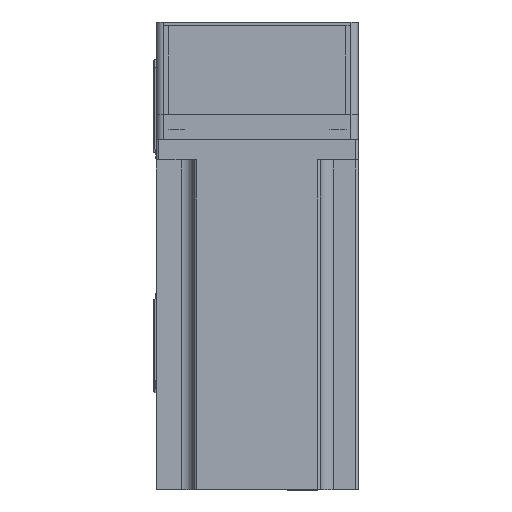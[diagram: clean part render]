
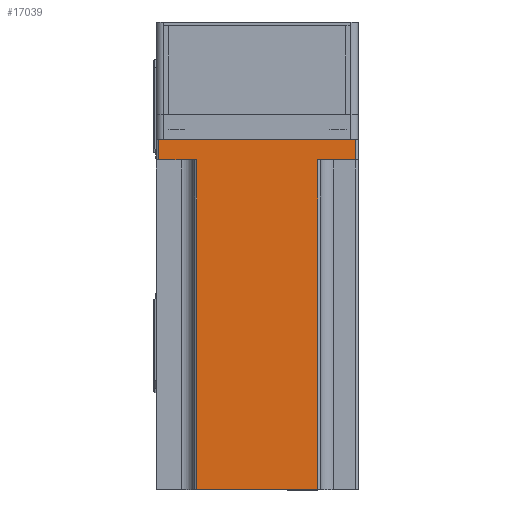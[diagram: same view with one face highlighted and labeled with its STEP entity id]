
A CAD part, top view. The second image highlights one B-rep face of the part: STEP entity #17039.
In plain terms, the highlighted planar face has unit normal (0, 0, 1) as drawn and (0, 1, 0) by its records, which use the part's own axes.
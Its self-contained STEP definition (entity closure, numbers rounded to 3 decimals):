
#986 = VECTOR ( 'NONE', #19134, 1000. ) ;
#1027 = VECTOR ( 'NONE', #12101, 1000. ) ;
#1615 = ORIENTED_EDGE ( 'NONE', *, *, #40635, .F. ) ;
#1739 = VERTEX_POINT ( 'NONE', #32372 ) ;
#1788 = CARTESIAN_POINT ( 'NONE',  ( 39., 40., 8. ) ) ;
#2291 = EDGE_CURVE ( 'NONE', #11723, #8171, #30824, .T. ) ;
#3043 = ORIENTED_EDGE ( 'NONE', *, *, #44759, .T. ) ;
#3064 = DIRECTION ( 'NONE',  ( 0., 0., -1. ) ) ;
#3933 = VECTOR ( 'NONE', #8280, 1000. ) ;
#4573 = CARTESIAN_POINT ( 'NONE',  ( -24., 40., 138.3 ) ) ;
#4998 = EDGE_CURVE ( 'NONE', #46299, #37204, #22251, .T. ) ;
#5219 = DIRECTION ( 'NONE',  ( -1., 0., 0. ) ) ;
#5310 = CARTESIAN_POINT ( 'NONE',  ( -24., 40., 8. ) ) ;
#6472 = CARTESIAN_POINT ( 'NONE',  ( 40., 40., 138.3 ) ) ;
#7607 = ORIENTED_EDGE ( 'NONE', *, *, #36972, .T. ) ;
#8171 = VERTEX_POINT ( 'NONE', #37384 ) ;
#8280 = DIRECTION ( 'NONE',  ( -1., 0., 0. ) ) ;
#10246 = DIRECTION ( 'NONE',  ( 1., 0., 0. ) ) ;
#11002 = LINE ( 'NONE', #34183, #986 ) ;
#11063 = LINE ( 'NONE', #27795, #29935 ) ;
#11723 = VERTEX_POINT ( 'NONE', #33739 ) ;
#12101 = DIRECTION ( 'NONE',  ( 0., 0., 1. ) ) ;
#12954 = LINE ( 'NONE', #24574, #41929 ) ;
#13835 = LINE ( 'NONE', #33223, #42789 ) ;
#14549 = VERTEX_POINT ( 'NONE', #1788 ) ;
#15759 = VERTEX_POINT ( 'NONE', #39603 ) ;
#16378 = AXIS2_PLACEMENT_3D ( 'NONE', #6472, #32870, #10246 ) ;
#16830 = CARTESIAN_POINT ( 'NONE',  ( -24., 40., 138.3 ) ) ;
#17039 = ADVANCED_FACE ( 'NONE', ( #27146 ), #32534, .F. ) ;
#18479 = CARTESIAN_POINT ( 'NONE',  ( 24., 40., 8. ) ) ;
#19032 = LINE ( 'NONE', #35633, #37972 ) ;
#19134 = DIRECTION ( 'NONE',  ( 0., 0., -1. ) ) ;
#20915 = DIRECTION ( 'NONE',  ( -1., 0., 0. ) ) ;
#22251 = LINE ( 'NONE', #4573, #1027 ) ;
#24569 = ORIENTED_EDGE ( 'NONE', *, *, #27903, .T. ) ;
#24574 = CARTESIAN_POINT ( 'NONE',  ( 40., 40., 138.3 ) ) ;
#25039 = ORIENTED_EDGE ( 'NONE', *, *, #29566, .F. ) ;
#27146 = FACE_OUTER_BOUND ( 'NONE', #47055, .T. ) ;
#27795 = CARTESIAN_POINT ( 'NONE',  ( 40., 40., 0. ) ) ;
#27903 = EDGE_CURVE ( 'NONE', #15759, #38666, #13835, .T. ) ;
#28360 = CARTESIAN_POINT ( 'NONE',  ( -39., 40., 138.3 ) ) ;
#29146 = EDGE_CURVE ( 'NONE', #1739, #11723, #11063, .T. ) ;
#29566 = EDGE_CURVE ( 'NONE', #14549, #38666, #44072, .T. ) ;
#29935 = VECTOR ( 'NONE', #5219, 1000. ) ;
#30824 = LINE ( 'NONE', #28360, #40884 ) ;
#30895 = CARTESIAN_POINT ( 'NONE',  ( 25., 40., 8. ) ) ;
#30936 = ORIENTED_EDGE ( 'NONE', *, *, #29146, .T. ) ;
#32372 = CARTESIAN_POINT ( 'NONE',  ( 39., 40., 0. ) ) ;
#32534 = PLANE ( 'NONE',  #16378 ) ;
#32870 = DIRECTION ( 'NONE',  ( 0., -1., 0. ) ) ;
#33223 = CARTESIAN_POINT ( 'NONE',  ( 24., 40., 138.3 ) ) ;
#33739 = CARTESIAN_POINT ( 'NONE',  ( -39., 40., 0. ) ) ;
#34183 = CARTESIAN_POINT ( 'NONE',  ( 39., 40., 138.3 ) ) ;
#35633 = CARTESIAN_POINT ( 'NONE',  ( -25., 40., 8. ) ) ;
#36060 = ORIENTED_EDGE ( 'NONE', *, *, #2291, .T. ) ;
#36972 = EDGE_CURVE ( 'NONE', #14549, #1739, #11002, .T. ) ;
#37204 = VERTEX_POINT ( 'NONE', #16830 ) ;
#37384 = CARTESIAN_POINT ( 'NONE',  ( -39., 40., 8. ) ) ;
#37972 = VECTOR ( 'NONE', #39460, 1000. ) ;
#38666 = VERTEX_POINT ( 'NONE', #18479 ) ;
#39460 = DIRECTION ( 'NONE',  ( 1., 0., 0. ) ) ;
#39603 = CARTESIAN_POINT ( 'NONE',  ( 24., 40., 138.3 ) ) ;
#40635 = EDGE_CURVE ( 'NONE', #15759, #37204, #12954, .T. ) ;
#40884 = VECTOR ( 'NONE', #47310, 1000. ) ;
#41929 = VECTOR ( 'NONE', #20915, 1000. ) ;
#42789 = VECTOR ( 'NONE', #3064, 1000. ) ;
#44072 = LINE ( 'NONE', #30895, #3933 ) ;
#44759 = EDGE_CURVE ( 'NONE', #8171, #46299, #19032, .T. ) ;
#46035 = ORIENTED_EDGE ( 'NONE', *, *, #4998, .T. ) ;
#46299 = VERTEX_POINT ( 'NONE', #5310 ) ;
#47055 = EDGE_LOOP ( 'NONE', ( #3043, #46035, #1615, #24569, #25039, #7607, #30936, #36060 ) ) ;
#47310 = DIRECTION ( 'NONE',  ( 0., 0., 1. ) ) ;
